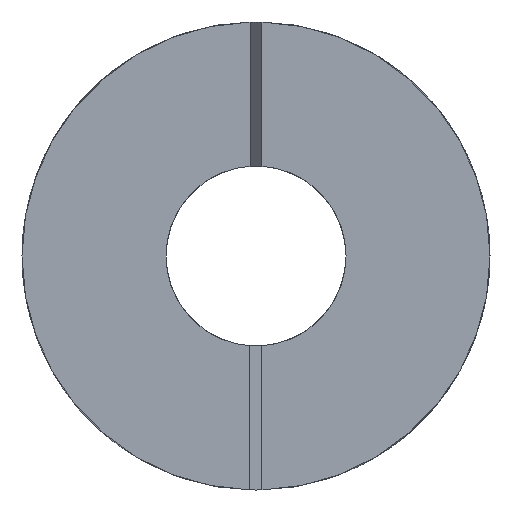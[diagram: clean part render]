
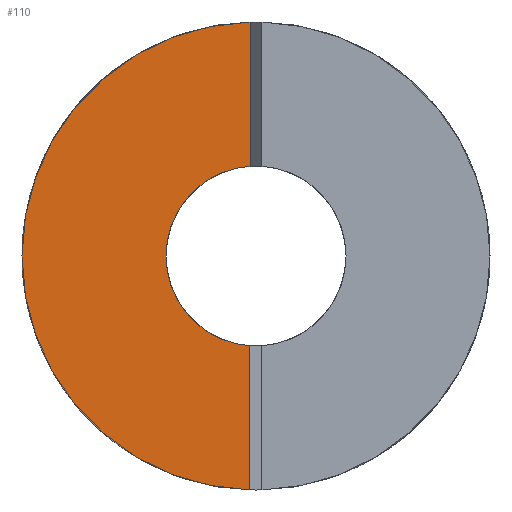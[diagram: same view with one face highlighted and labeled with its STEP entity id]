
A CAD part, left-side view. The second image highlights one B-rep face of the part: STEP entity #110.
In plain terms, the highlighted planar face has unit normal (-1, 0, 0).
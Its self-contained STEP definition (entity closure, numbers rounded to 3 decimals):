
#110=ADVANCED_FACE('',(#2208),#2244,.T.);
#373=EDGE_CURVE('',#378,#379,#374,.T.);
#374=LINE('',#375,#376);
#375=CARTESIAN_POINT('',(-21.5,0.5,
   -7.483));
#376=VECTOR('',#377,1.);
#377=DIRECTION('',(0.,0.,
   -1.));
#378=VERTEX_POINT('',#380);
#379=VERTEX_POINT('',#381);
#380=CARTESIAN_POINT('',(-21.5,0.5,
   -7.483));
#381=CARTESIAN_POINT('',(-21.5,0.5,
   -19.494));
#2208=FACE_OUTER_BOUND('',#2209,.T.);
#2209=EDGE_LOOP('',(#2210,#2211,#2212,#2213,#2214));
#2210=ORIENTED_EDGE('',*,*,#2215,.T.);
#2211=ORIENTED_EDGE('',*,*,#2224,.T.);
#2212=ORIENTED_EDGE('',*,*,#373,.F.);
#2213=ORIENTED_EDGE('',*,*,#2230,.T.);
#2214=ORIENTED_EDGE('',*,*,#2238,.T.);
#2215=EDGE_CURVE('',#2220,#2221,#2216,.T.);
#2216=LINE('',#2217,#2218);
#2217=CARTESIAN_POINT('',(-21.5,0.5,19.5));
#2218=VECTOR('',#2219,1.);
#2219=DIRECTION('',(0.,0.,1.));
#2220=VERTEX_POINT('',#2222);
#2221=VERTEX_POINT('',#2223);
#2222=CARTESIAN_POINT('',(-21.5,0.5,
   7.483));
#2223=CARTESIAN_POINT('',(-21.5,0.5,
   19.494));
#2224=EDGE_CURVE('',#2221,#379,#2225,.T.);
#2225=CIRCLE('',#2226,19.5);
#2226=AXIS2_PLACEMENT_3D('',#2227,#2228,#2229);
#2227=CARTESIAN_POINT('',(-21.5,0.,0.));
#2228=DIRECTION('',(-1.,0.,0.));
#2229=DIRECTION('',(0.,1.,0.));
#2230=EDGE_CURVE('',#378,#2236,#2231,.T.);
#2231=CIRCLE('',#2232,7.5);
#2232=AXIS2_PLACEMENT_3D('',#2233,#2234,#2235);
#2233=CARTESIAN_POINT('',(-21.5,0.,
   0.));
#2234=DIRECTION('',(1.,0.,0.));
#2235=DIRECTION('',(0.,-1.,0.));
#2236=VERTEX_POINT('',#2237);
#2237=CARTESIAN_POINT('',(-21.5,7.5,0.));
#2238=EDGE_CURVE('',#2236,#2220,#2239,.T.);
#2239=CIRCLE('',#2240,7.5);
#2240=AXIS2_PLACEMENT_3D('',#2241,#2242,#2243);
#2241=CARTESIAN_POINT('',(-21.5,0.,
   0.));
#2242=DIRECTION('',(1.,0.,0.));
#2243=DIRECTION('',(0.,-1.,0.));
#2244=PLANE('',#2245);
#2245=AXIS2_PLACEMENT_3D('',#2246,#2247,#2248);
#2246=CARTESIAN_POINT('',(-21.5,0.,0.));
#2247=DIRECTION('',(-1.,0.,0.));
#2248=DIRECTION('',(0.,-1.,0.));
